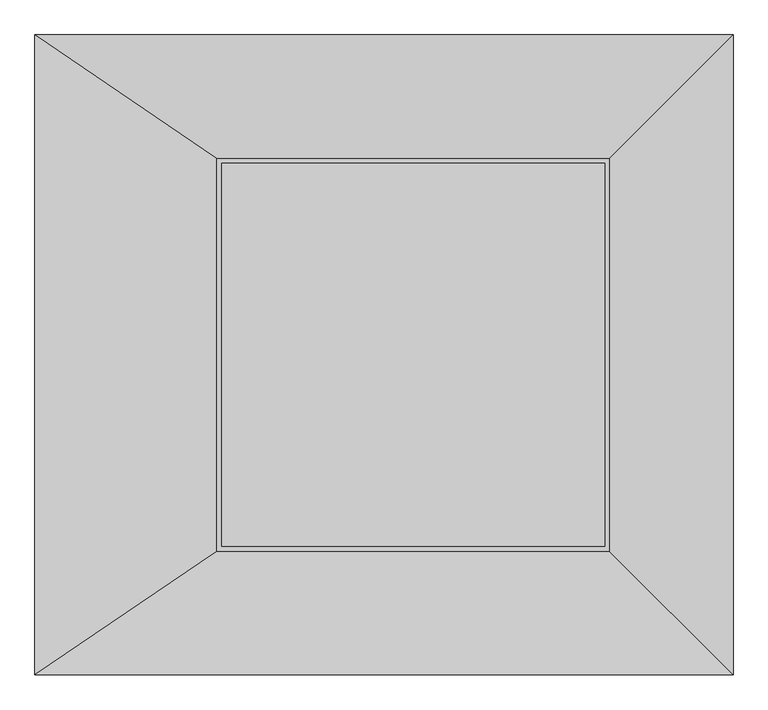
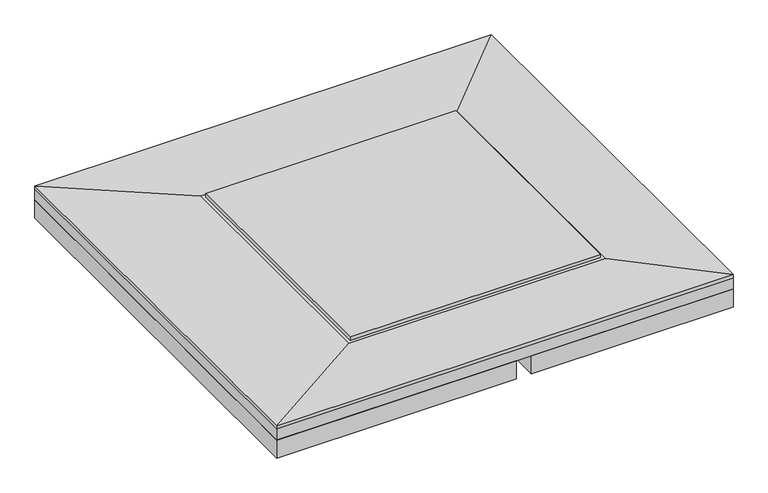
"""IFC4 building model written with IfcOpenShell, lengths in millimetres: sanitary terminal geometry, NLRS_PF_52_UN_Showerboard SQUARE_uitloop_Easydrain : Square Zijuitloop laag 40 mm."""

import ifcopenshell
import ifcopenshell.guid

model = None  # the IFC model being written
_history = None  # IfcOwnerHistory: only IFC2X3 demands one
_inside = {}  # id of a spatial element -> (the spatial element, [elements in it])
_under = {}  # id of a project, library or spatial element -> (it, [spatial elements below it])
_declared = {}  # id of a project -> (the project, [libraries it declares])
_typed = {}  # id of a type object -> (the type object, [elements of that type])
_made_of = {}  # id of a material, layer set ... -> (it, [elements and type objects made of it])


def new_model(schema):
    """Start an empty IFC model of exactly this schema.

    Asked for "IFC4X3", IfcOpenShell would pick the latest addendum, in which some entities
    have other attributes; the version numbers below select the first issue.
    IFC2X3 requires an IfcOwnerHistory on every rooted entity: one is made here for all.
    """
    global model, _history
    if schema == "IFC4X3":
        model = ifcopenshell.file(schema_version=(4, 3, 0, 0))
    else:
        model = ifcopenshell.file(schema=schema)
    _inside.clear()
    _under.clear()
    _declared.clear()
    _typed.clear()
    _made_of.clear()
    _history = None
    if model.schema == "IFC2X3":
        org = make("IfcOrganization", Name="unknown")
        user = make(
            "IfcPersonAndOrganization",
            ThePerson=make("IfcPerson", FamilyName="unknown"),
            TheOrganization=org,
        )
        app = make(
            "IfcApplication",
            ApplicationDeveloper=org,
            Version="unknown",
            ApplicationFullName="unknown",
            ApplicationIdentifier="unknown",
        )
        _history = make(
            "IfcOwnerHistory",
            OwningUser=user,
            OwningApplication=app,
            ChangeAction="ADDED",
            CreationDate=0,
        )
    return model


def make(cls, **values):
    """One entity of the class cls with the attributes given. An attribute that is None is left unset."""
    return model.create_entity(
        cls, **{name: value for name, value in values.items() if value is not None}
    )


def rooted(cls, **values):
    """An entity with a GlobalId (a new one), such as an element, a storey or a relation."""
    return make(cls, GlobalId=ifcopenshell.guid.new(), OwnerHistory=_history, **values)


def si_unit(unit_type, name, prefix=None):
    """IfcSIUnit, for example si_unit("LENGTHUNIT", "METRE", prefix="MILLI")."""
    return make("IfcSIUnit", UnitType=unit_type, Prefix=prefix, Name=name)


def assignment(units):
    """IfcUnitAssignment: the units of a project."""
    return None if units is None else make("IfcUnitAssignment", Units=units)


def point(xyz):
    """IfcCartesianPoint."""
    return None if xyz is None else make("IfcCartesianPoint", Coordinates=xyz)


def direction(xyz):
    """IfcDirection."""
    return None if xyz is None else make("IfcDirection", DirectionRatios=xyz)


def frame(location, z_axis=None, x_axis=None):
    """IfcAxis2Placement3D, a coordinate frame: its origin and axes. An axis left out is left unset."""
    return make(
        "IfcAxis2Placement3D",
        Location=point(location),
        Axis=direction(z_axis),
        RefDirection=direction(x_axis),
    )


def origin():
    """The frame at (0, 0, 0) with its axes left unset."""
    return frame((0.0, 0.0, 0.0))


def place(relative_to, where):
    """IfcLocalPlacement: puts the frame where relative to a parent placement (None: the world)."""
    return make(
        "IfcLocalPlacement", PlacementRelTo=relative_to, RelativePlacement=where
    )


def context(
    kind, dimensions, precision=None, world=None, true_north=None, identifier=None
):
    """IfcGeometricRepresentationContext, for example the 3D "Model" context."""
    return make(
        "IfcGeometricRepresentationContext",
        ContextIdentifier=identifier,
        ContextType=kind,
        CoordinateSpaceDimension=dimensions,
        Precision=precision,
        WorldCoordinateSystem=world,
        TrueNorth=true_north,
    )


def project(units=None, contexts=None):
    """IfcProject with its units and contexts."""
    return rooted(
        "IfcProject",
        Name="project",
        RepresentationContexts=contexts,
        UnitsInContext=assignment(units),
    )


def spatial(cls, under=None, at=None, **own):
    """A site, building, storey or space (cls), placed at a placement, below another one or the project."""
    s = rooted(cls, ObjectPlacement=at, **own)
    if under is not None:
        _under.setdefault(under.id(), (under, []))[1].append(s)
    return s


def polyline(points):
    """IfcPolyline through the points."""
    return make("IfcPolyline", Points=[point(p) for p in points])


def circle_curve(where, radius):
    """IfcCircle in the frame where."""
    return make("IfcCircle", Position=where, Radius=radius)


def outline(outer, holes=None, kind="AREA"):
    """IfcArbitraryClosedProfileDef: a profile drawn as a closed curve; with holes, ...WithVoids."""
    if holes is None:
        return make("IfcArbitraryClosedProfileDef", ProfileType=kind, OuterCurve=outer)
    return make(
        "IfcArbitraryProfileDefWithVoids",
        ProfileType=kind,
        OuterCurve=outer,
        InnerCurves=holes,
    )


def extrude(swept, where, along, depth):
    """IfcExtrudedAreaSolid: the profile swept, set in the frame where, extruded along a direction by depth."""
    return make(
        "IfcExtrudedAreaSolid",
        SweptArea=swept,
        Position=where,
        ExtrudedDirection=direction(along),
        Depth=depth,
    )


def faces_of(points, faces, orient=None, outer=None):
    """IfcFace entities. A face is a list of loops; a loop is a list of indices into points, from 0.

    orient and outer hold one flag for each loop. By default every Orientation is true, the
    first loop of a face is its IfcFaceOuterBound and the others are IfcFaceBound.
    """
    made = []
    for i, loops in enumerate(faces):
        bounds = []
        for j, loop in enumerate(loops):
            is_outer = j == 0 if outer is None else outer[i][j]
            bounds.append(
                make(
                    "IfcFaceOuterBound" if is_outer else "IfcFaceBound",
                    Bound=make("IfcPolyLoop", Polygon=[points[k] for k in loop]),
                    Orientation=True if orient is None else orient[i][j],
                )
            )
        made.append(make("IfcFace", Bounds=bounds))
    return made


def faceted_brep(points, faces, orient=None, outer=None, voids=None):
    """IfcFacetedBrep: a solid bounded by flat faces; with voids (closed shells), ...WithVoids."""
    shared = [point(p) for p in points]
    hull = make("IfcClosedShell", CfsFaces=faces_of(shared, faces, orient, outer))
    if voids is None:
        return make("IfcFacetedBrep", Outer=hull)
    return make(
        "IfcFacetedBrepWithVoids",
        Outer=hull,
        Voids=[
            make(cls, CfsFaces=faces_of(shared, fs, o, b)) for cls, fs, o, b in voids
        ],
    )


def shape(context_of_items, identifier, shape_type, items):
    """IfcShapeRepresentation: the items that make up one representation, for example the "Body"."""
    return make(
        "IfcShapeRepresentation",
        ContextOfItems=context_of_items,
        RepresentationIdentifier=identifier,
        RepresentationType=shape_type,
        Items=items,
    )


def source(mapping_origin, context_of_items, identifier, shape_type, items):
    """IfcRepresentationMap: a shape defined once, which mapped items show again and again."""
    return make(
        "IfcRepresentationMap",
        MappingOrigin=mapping_origin,
        MappedRepresentation=shape(context_of_items, identifier, shape_type, items),
    )


def transform(
    local_origin,
    x_axis=None,
    y_axis=None,
    z_axis=None,
    scale=None,
    scale2=None,
    scale3=None,
    uniform=True,
):
    """IfcCartesianTransformationOperator3D, or its non-uniform kind. x_axis, y_axis, z_axis: its Axis1, 2, 3."""
    if uniform:
        return make(
            "IfcCartesianTransformationOperator3D",
            Axis1=direction(x_axis),
            Axis2=direction(y_axis),
            LocalOrigin=point(local_origin),
            Scale=scale,
            Axis3=direction(z_axis),
        )
    return make(
        "IfcCartesianTransformationOperator3DnonUniform",
        Axis1=direction(x_axis),
        Axis2=direction(y_axis),
        LocalOrigin=point(local_origin),
        Scale=scale,
        Axis3=direction(z_axis),
        Scale2=scale2,
        Scale3=scale3,
    )


def mapped(mapping_source, mapping_target):
    """IfcMappedItem: shows the shape of a source again, moved by a transform."""
    return make(
        "IfcMappedItem", MappingSource=mapping_source, MappingTarget=mapping_target
    )


def made_of(thing, what):
    """Note that an element or type object is made of a material, layer set ...; save() writes the relation."""
    if what is not None:
        _made_of.setdefault(what.id(), (what, []))[1].append(thing)
    return thing


def element(
    cls,
    number,
    at=None,
    inside=None,
    cuts=None,
    type_object=None,
    material=None,
    context=None,
    identifier="Body",
    shape_type=None,
    held_by="IfcProductDefinitionShape",
    body=None,
    shapes=None,
    **own,
):
    """One element of the class cls, such as IfcWall. Its Tag is "e" and its number.

    at: its placement. inside: the storey or other place that contains it. cuts: it is an
    opening in that element (IfcRelVoidsElement). A single representation is given by context,
    identifier, shape_type and body (its items); several are given by shapes. held_by: the class
    of the entity that holds the representations. save() writes the other relations.
    """
    e = rooted(cls, Tag="e%d" % number, ObjectPlacement=at, **own)
    if body is not None:
        shapes = [shape(context, identifier, shape_type, body)]
    if shapes is not None:
        e.Representation = make(held_by, Representations=shapes)
    if inside is not None:
        _inside.setdefault(inside.id(), (inside, []))[1].append(e)
    if cuts is not None:
        rooted(
            "IfcRelVoidsElement", RelatingBuildingElement=cuts, RelatedOpeningElement=e
        )
    if type_object is not None:
        _typed.setdefault(type_object.id(), (type_object, []))[1].append(e)
    return made_of(e, material)


def aggregate(whole, parts):
    """IfcRelAggregates: a whole, such as a stair, and the parts it consists of."""
    return rooted("IfcRelAggregates", RelatingObject=whole, RelatedObjects=parts)


def save(model, path):
    """Write the relations noted so far, then the file.

    IfcRelAggregates (storeys below a building ...), IfcRelContainedInSpatialStructure (elements
    in a storey), IfcRelDefinesByType, IfcRelAssociatesMaterial and IfcRelDeclares: one each for
    every whole, place, type object, material and project.
    """
    for whole, parts in _under.values():
        aggregate(whole, parts)
    for where, things in _inside.values():
        rooted(
            "IfcRelContainedInSpatialStructure",
            RelatedElements=things,
            RelatingStructure=where,
        )
    for kind, things in _typed.values():
        rooted("IfcRelDefinesByType", RelatedObjects=things, RelatingType=kind)
    for what, things in _made_of.values():
        rooted("IfcRelAssociatesMaterial", RelatedObjects=things, RelatingMaterial=what)
    for by, libraries in _declared.values():
        rooted("IfcRelDeclares", RelatingContext=by, RelatedDefinitions=libraries)
    model.write(path)


def plane_surface(at):
    """IfcPlane: the flat surface through the origin of the frame at, square to its z axis."""
    return make("IfcPlane", Position=at)


def revolved_surface(curve, axis_point, axis_direction):
    """IfcSurfaceOfRevolution: the curve turned about the line through axis_point along axis_direction."""
    return make(
        "IfcSurfaceOfRevolution",
        SweptCurve=make("IfcArbitraryOpenProfileDef", ProfileType="CURVE", Curve=curve),
        AxisPosition=make("IfcAxis1Placement", Location=point(axis_point), Axis=direction(axis_direction)),
    )


def advanced_brep(points, edges, surfaces, faces):
    """IfcAdvancedBrep: a solid bounded by faces that lie on surfaces and meet in shared edges.

    An edge is (start, end): straight between two places in points (the first is 0);
    or (start, end, curve); or (start, end, curve, False) where it runs against its curve.
    A face is (place in surfaces, loops), or (place, loops, False) where it looks against
    its surface's normal. A loop lists edges by number (the first is 1), with a minus sign
    where the edge is run from its end to its start. The first loop is the outer one.
    """
    corners = [point(p) for p in points]
    vertices = [make("IfcVertexPoint", VertexGeometry=c) for c in corners]
    made = []
    for start, end, *more in edges:
        made.append(
            make(
                "IfcEdgeCurve",
                EdgeStart=vertices[start],
                EdgeEnd=vertices[end],
                EdgeGeometry=more[0] if more else make("IfcPolyline", Points=[corners[start], corners[end]]),
                SameSense=more[1] if len(more) > 1 else True,
            )
        )
    hull = []
    for where, loops, *sense in faces:
        bounds = []
        for j, loop in enumerate(loops):
            ring = [make("IfcOrientedEdge", EdgeElement=made[abs(k) - 1], Orientation=k > 0) for k in loop]
            bounds.append(
                make(
                    "IfcFaceOuterBound" if j == 0 else "IfcFaceBound",
                    Bound=make("IfcEdgeLoop", EdgeList=ring),
                    Orientation=True,
                )
            )
        hull.append(make("IfcAdvancedFace", Bounds=bounds, FaceSurface=surfaces[where], SameSense=sense[0] if sense else True))
    return make("IfcAdvancedBrep", Outer=make("IfcClosedShell", CfsFaces=hull))


def sanitary_terminal_dbedebaa(model_context):
    return source(origin(), model_context, "Body", "SolidModel", [
        extrude(outline(polyline([(550.0, 550.0), (550.0, -550.0), (20.0, -550.0), (20.0, 0.0), (-20.0, 0.0), (-20.0, -550.0), (-650.0, -550.0), (-650.0, 550.0), (550.0, 550.0)])), frame((0.0, 0.0, -90.0), z_axis=(0.0, 0.0, 1.0), x_axis=(1.0, 0.0, 0.0)), (0.0, 0.0, 1.0), 50.0),
        extrude(outline(polyline([(329.0, 329.0), (329.0, -329.0), (-329.0, -329.0), (-329.0, 329.0), (329.0, 329.0)])), frame((0.0, 0.0, -9.0), z_axis=(0.0, 0.0, 1.0), x_axis=(1.0, 0.0, 0.0)), (0.0, 0.0, 1.0), 9.0),
        faceted_brep([(550.0, 550.0, -9.0), (550.0, -550.0, -9.0), (-650.0, -550.0, -9.0), (-650.0, 550.0, -9.0), (338.0, -338.0, -9.0), (338.0, 338.0, -9.0), (-338.0, 338.0, -9.0), (-338.0, -338.0, -9.0), (-650.0, 550.0, 0.0), (550.0, 550.0, 0.0), (-650.0, -550.0, 0.0), (550.0, -550.0, 0.0)], [[[0, 1, 2, 3], [4, 5, 6, 7]], [[0, 3, 8, 9]], [[3, 2, 10, 8]], [[2, 1, 11, 10]], [[1, 0, 9, 11]], [[9, 5, 4, 11]], [[11, 4, 7, 10]], [[10, 7, 6, 8]], [[5, 9, 8, 6]]]),
        advanced_brep(
        [(550.0, 550.0, -40.0), (550.0, -550.0, -40.0), (-650.0, -550.0, -40.0), (-650.0, 550.0, -40.0), (-51.0, 0.0, -40.0), (51.0, 0.0, -40.0), (-650.0, 550.0, 0.0), (550.0, 550.0, 0.0), (-650.0, -550.0, 0.0), (550.0, -550.0, 0.0), (51.0, 0.0, -9.0), (-51.0, 0.0, -9.0), (338.0, 338.0, -9.0), (-338.0, 338.0, -9.0), (-338.0, -338.0, -9.0), (338.0, -338.0, -9.0)],
        [
            (0, 1),
            (1, 2),
            (2, 3),
            (3, 0),
            (4, 5, circle_curve(frame((0.0, 0.0, -40.0), z_axis=(0.0, 0.0, 1.0), x_axis=(1.0, 0.0, 0.0)), 51.0)),
            (5, 4, circle_curve(frame((0.0, 0.0, -40.0), z_axis=(0.0, 0.0, 1.0), x_axis=(1.0, 0.0, 0.0)), 51.0)),
            (3, 6),
            (6, 7),
            (7, 0),
            (2, 8),
            (8, 6),
            (1, 9),
            (9, 8),
            (7, 9),
            (5, 10),
            (10, 11, circle_curve(frame((0.0, 0.0, -9.0), z_axis=(0.0, 0.0, 1.0), x_axis=(1.0, 0.0, 0.0)), 51.0)),
            (11, 4),
            (11, 10, circle_curve(frame((0.0, 0.0, -9.0), z_axis=(0.0, 0.0, 1.0), x_axis=(1.0, 0.0, 0.0)), 51.0)),
            (12, 13),
            (13, 14),
            (14, 15),
            (15, 12),
            (15, 9),
            (7, 12),
            (14, 8),
            (13, 6),
        ],
        [
            plane_surface(frame((-650.0, 550.0, -40.0), z_axis=(0.0, 0.0, -1.0), x_axis=(1.0, 0.0, 0.0))),
            plane_surface(frame((550.0, 550.0, 0.0), z_axis=(0.0, 1.0, 0.0), x_axis=(0.0, 0.0, -1.0))),
            plane_surface(frame((-650.0, 550.0, 0.0), z_axis=(-1.0, 0.0, 0.0), x_axis=(0.0, 0.0, -1.0))),
            plane_surface(frame((-650.0, -550.0, 0.0), z_axis=(0.0, -1.0, 0.0), x_axis=(0.0, 0.0, -1.0))),
            plane_surface(frame((550.0, -550.0, 0.0), z_axis=(1.0, 0.0, 0.0), x_axis=(0.0, 0.0, -1.0))),
            revolved_surface(polyline([(51.0, 0.0, -40.0), (51.0, 0.0, -9.0)]), (0.0, 0.0, 0.0), (0.0, 0.0, -1.0)),
            plane_surface(frame((0.0, 0.0, -9.0), z_axis=(0.0, 0.0, 1.0), x_axis=(-1.0, 0.0, 0.0))),
            plane_surface(frame((550.0, 0.0, 0.0), z_axis=(-0.04241462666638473, 0.0, 0.999100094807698), x_axis=(0.0, -1.0, 0.0))),
            plane_surface(frame((-50.0, -550.0, 0.0), z_axis=(0.0, 0.04241462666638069, 0.9991000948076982), x_axis=(-1.0, 0.0, 0.0))),
            plane_surface(frame((-650.0, 0.0, 0.0), z_axis=(0.028834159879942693, 0.0, 0.9995842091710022), x_axis=(0.0, 1.0, 0.0))),
            plane_surface(frame((-50.0, 550.0, 0.0), z_axis=(0.0, -0.04241462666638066, 0.9991000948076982), x_axis=(1.0, 0.0, 0.0))),
        ],
        [
            (0, [[1, 2, 3, 4], [5, 6]]),
            (1, [[-4, 7, 8, 9]]),
            (2, [[-3, 10, 11, -7]]),
            (3, [[-2, 12, 13, -10]]),
            (4, [[-1, -9, 14, -12]]),
            (5, [[-6, 15, 16, 17]]),
            (5, [[-5, -17, 18, -15]]),
            (6, [[19, 20, 21, 22], [-16, -18]]),
            (7, [[-22, 23, -14, 24]]),
            (8, [[-21, 25, -13, -23]]),
            (9, [[-20, 26, -11, -25]]),
            (10, [[-19, -24, -8, -26]]),
        ],
    ),
    ])


if __name__ == "__main__":
    model = new_model("IFC4")
    model_context = context("Model", 3, world=origin())
    ifc_project = project(units=[si_unit("LENGTHUNIT", "METRE", prefix="MILLI")], contexts=[model_context])
    site = spatial("IfcSite", under=ifc_project)
    building = spatial("IfcBuilding", under=site)
    placement = place(None, origin())
    sanitary_terminal_shape = sanitary_terminal_dbedebaa(model_context)
    element("IfcSanitaryTerminal", 1, ObjectType="NLRS_PF_52_UN_Showerboard SQUARE_uitloop_Easydrain : Square Zijuitloop laag 40 mm", at=placement, inside=building, context=model_context, shape_type="MappedRepresentation", body=[
        mapped(sanitary_terminal_shape, transform((0.0, 0.0, 0.0), x_axis=(1.0, 0.0, 0.0), y_axis=(0.0, 1.0, 0.0), z_axis=(0.0, 0.0, 1.0))),
    ])
    save(model, "model.ifc")
